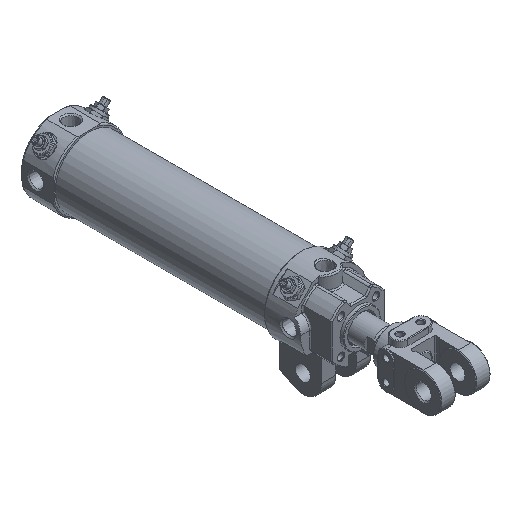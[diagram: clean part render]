
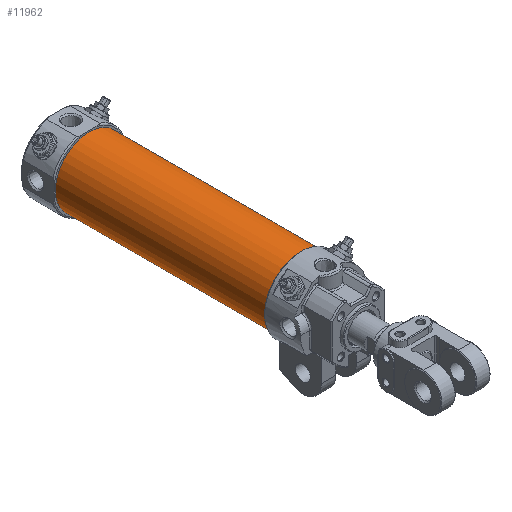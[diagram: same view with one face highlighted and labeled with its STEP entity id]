
A CAD part, isometric view. The second image highlights one B-rep face of the part: STEP entity #11962.
In plain terms, the highlighted cylindrical face has radius 27.5 mm (diameter 55 mm), a full revolution.
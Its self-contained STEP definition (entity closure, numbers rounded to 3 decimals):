
#4051=CARTESIAN_POINT('',(27.5,221.0,0.));
#4052=VERTEX_POINT('',#4051);
#4053=CARTESIAN_POINT('',(0.,221.0,0.));
#4054=DIRECTION('',(0.0,-1.0,0.0));
#4055=DIRECTION('',(-1.0,0.0,0.0));
#4056=AXIS2_PLACEMENT_3D('',#4053,#4054,#4055);
#4057=CIRCLE('',#4056,27.5);
#4058=EDGE_CURVE('',#4052,#4052,#4057,.T.);
#11939=CARTESIAN_POINT('',(27.5,50.,0.));
#11940=VERTEX_POINT('',#11939);
#11941=CARTESIAN_POINT('',(0.,50.,0.));
#11942=DIRECTION('',(0.0,-1.0,0.0));
#11943=DIRECTION('',(-1.0,0.0,0.0));
#11944=AXIS2_PLACEMENT_3D('',#11941,#11942,#11943);
#11945=CIRCLE('',#11944,27.5);
#11946=EDGE_CURVE('',#11940,#11940,#11945,.T.);
#11951=CARTESIAN_POINT('',(0.,50.,0.));
#11952=DIRECTION('',(0.0,1.0,0.));
#11953=DIRECTION('',(-1.0,0.0,0.0));
#11954=AXIS2_PLACEMENT_3D('',#11951,#11952,#11953);
#11955=CYLINDRICAL_SURFACE('',#11954,27.5);
#11956=ORIENTED_EDGE('',*,*,#4058,.T.);
#11957=EDGE_LOOP('',(#11956));
#11958=FACE_OUTER_BOUND('',#11957,.T.);
#11959=ORIENTED_EDGE('',*,*,#11946,.F.);
#11960=EDGE_LOOP('',(#11959));
#11961=FACE_BOUND('',#11960,.T.);
#11962=ADVANCED_FACE('',(#11958,#11961),#11955,.T.);
